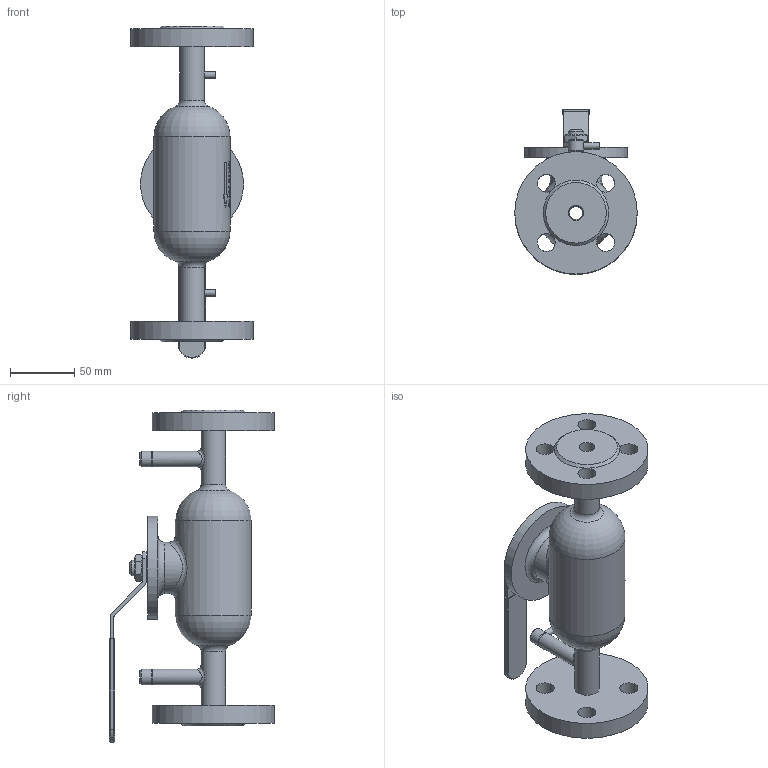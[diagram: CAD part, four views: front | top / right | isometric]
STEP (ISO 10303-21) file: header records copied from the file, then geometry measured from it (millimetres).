
FILE_DESCRIPTION(('STEP AP214'), '1');
FILE_NAME('BVR3232P-SP-F-H Êðàí øàðîâîé ðåãóëèðóþùèé DN.ru Äó15 Ðó40', '', ('UNSPECIFIED'), ('UNSPECIFIED'), 'C3D Converter', 'C3D Toolkit', '');
FILE_SCHEMA(('AUTOMOTIVE_DESIGN { 1 0 10303 214 3 1 1}'));
Length unit declared in the file: millimetre
Products named in the file (1): BVR3232P-SP-F-H
Bounding box: 95 x 128 x 257.5 mm (x, y, z)
Volume: 562270.4 mm3; surface area: 100588.7 mm2
Topology: 1 solids, 1 shells, 698 faces, 1807 edges, 1195 vertices
Faces by surface type: plane 341, bspline 169, cylinder 86, extrusion 82, cone 11, torus 9
Full cylindrical faces by diameter (mm): 2.5 x2, 5 x2, 10 x1, 12 x8, 14 x8, 19 x2, 40 x1, 59 x1, 76 x1, 80 x1, 95 x2
Entity records: 72081 total; most frequent: CARTESIAN_POINT 55454, ORIENTED_EDGE 3516, DIRECTION 2361, EDGE_CURVE 1758, VERTEX_POINT 1195, VECTOR 935, EDGE_LOOP 857, LINE 853
